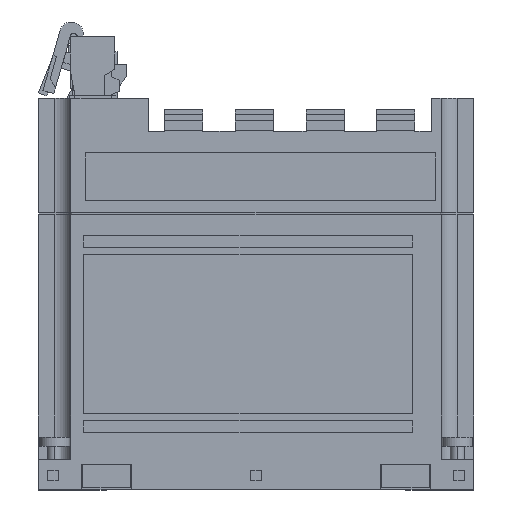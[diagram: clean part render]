
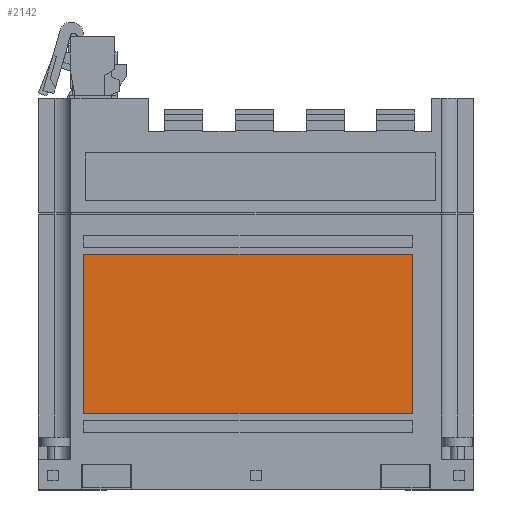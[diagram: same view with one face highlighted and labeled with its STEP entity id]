
A CAD part, front view. The second image highlights one B-rep face of the part: STEP entity #2142.
In plain terms, the highlighted planar face has unit normal (0, -1, 0).
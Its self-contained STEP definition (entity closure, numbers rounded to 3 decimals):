
#2086 = VERTEX_POINT ( 'NONE', #12061 ) ;
#2088 = EDGE_CURVE ( 'NONE', #2089, #2086, #12060, .T. ) ;
#2089 = VERTEX_POINT ( 'NONE', #12056 ) ;
#2132 = VERTEX_POINT ( 'NONE', #12114 ) ;
#2140 = EDGE_CURVE ( 'NONE', #2086, #2132, #12171, .T. ) ;
#2142 = ADVANCED_FACE ( 'NONE', ( #12167 ), #12166, .F. ) ;
#2143 = EDGE_LOOP ( 'NONE', ( #2144, #2145, #2197, #2198 ) ) ;
#2144 = ORIENTED_EDGE ( 'NONE', *, *, #2088, .T. ) ;
#2145 = ORIENTED_EDGE ( 'NONE', *, *, #2140, .T. ) ;
#2149 = EDGE_CURVE ( 'NONE', #2150, #2089, #12161, .T. ) ;
#2150 = VERTEX_POINT ( 'NONE', #12157 ) ;
#2158 = EDGE_CURVE ( 'NONE', #2132, #2150, #12146, .T. ) ;
#2197 = ORIENTED_EDGE ( 'NONE', *, *, #2158, .T. ) ;
#2198 = ORIENTED_EDGE ( 'NONE', *, *, #2149, .T. ) ;
#12056 = CARTESIAN_POINT ( 'NONE',  ( 103.1, -67.5, 21. ) ) ;
#12057 = DIRECTION ( 'NONE',  ( 0., 0., 1. ) ) ;
#12058 = VECTOR ( 'NONE', #12057, 1000. ) ;
#12059 = CARTESIAN_POINT ( 'NONE',  ( 103.1, -67.5, 65. ) ) ;
#12060 = LINE ( 'NONE', #12059, #12058 ) ;
#12061 = CARTESIAN_POINT ( 'NONE',  ( 103.1, -67.5, 65. ) ) ;
#12114 = CARTESIAN_POINT ( 'NONE',  ( 12.5, -67.5, 65. ) ) ;
#12143 = DIRECTION ( 'NONE',  ( 0., 0., -1. ) ) ;
#12144 = VECTOR ( 'NONE', #12143, 1000. ) ;
#12145 = CARTESIAN_POINT ( 'NONE',  ( 12.5, -67.5, 65. ) ) ;
#12146 = LINE ( 'NONE', #12145, #12144 ) ;
#12157 = CARTESIAN_POINT ( 'NONE',  ( 12.5, -67.5, 21. ) ) ;
#12158 = DIRECTION ( 'NONE',  ( 1., 0., 0. ) ) ;
#12159 = VECTOR ( 'NONE', #12158, 1000. ) ;
#12160 = CARTESIAN_POINT ( 'NONE',  ( 103.1, -67.5, 21. ) ) ;
#12161 = LINE ( 'NONE', #12160, #12159 ) ;
#12162 = DIRECTION ( 'NONE',  ( 0., 0., 1. ) ) ;
#12163 = DIRECTION ( 'NONE',  ( 0., 1., 0. ) ) ;
#12164 = CARTESIAN_POINT ( 'NONE',  ( 103.1, -67.5, 21. ) ) ;
#12165 = AXIS2_PLACEMENT_3D ( 'NONE', #12164, #12163, #12162 ) ;
#12166 = PLANE ( 'NONE',  #12165 ) ;
#12167 = FACE_OUTER_BOUND ( 'NONE', #2143, .T. ) ;
#12168 = DIRECTION ( 'NONE',  ( -1., 0., 0. ) ) ;
#12169 = VECTOR ( 'NONE', #12168, 1000. ) ;
#12170 = CARTESIAN_POINT ( 'NONE',  ( 103.1, -67.5, 65. ) ) ;
#12171 = LINE ( 'NONE', #12170, #12169 ) ;
